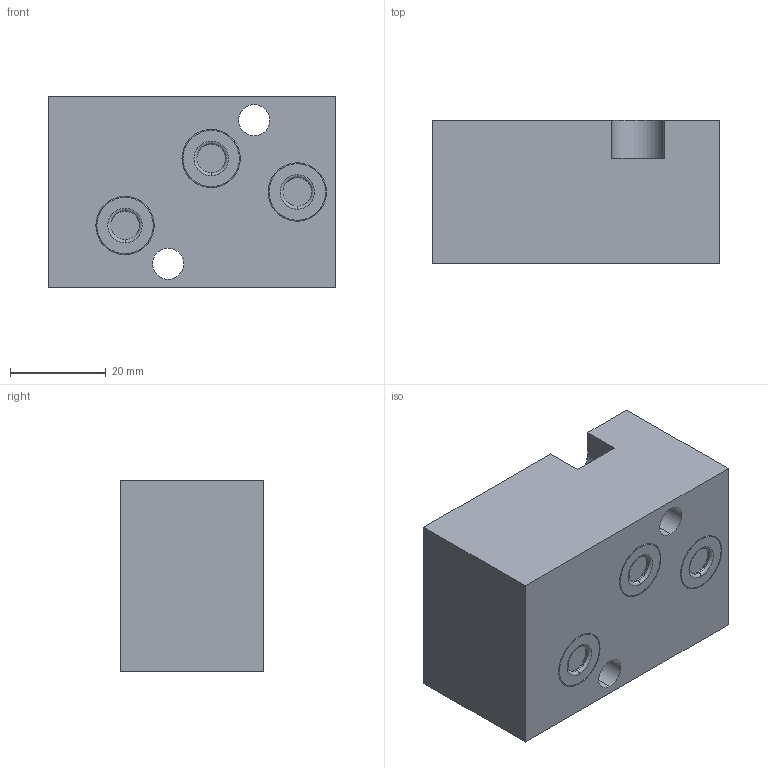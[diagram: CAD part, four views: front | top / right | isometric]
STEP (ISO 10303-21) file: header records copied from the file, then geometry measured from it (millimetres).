
FILE_DESCRIPTION(/* description */ (''),/* implementation_level */ '2;1');
FILE_NAME(/* name */ 'PBGF-LA.stp',/* time_stamp */ '2024-10-23T15:10:15+08:00',/* author */ (''),/* organization */ (''),/* preprocessor_version */ 'ST-DEVELOPER v16.7',/* originating_system */ 'SIEMENS PLM Software NX 12.0',/* authorisation */ '');
FILE_SCHEMA (('AP203_CONFIGURATION_CONTROLLED_3D_DESIGN_OF_MECHANICAL_PARTS_AND_ASSEMBLIES_MIM_LF { 1 0 10303 403 2 1 2}'));
Length unit declared in the file: millimetre
Products named in the file (1): VCP-L_HG_step
Bounding box: 60 x 30 x 40 mm (x, y, z)
Volume: 68770.8 mm3; surface area: 11987.9 mm2
Topology: 1 solids, 1 shells, 55 faces, 123 edges, 76 vertices
Faces by surface type: cylinder 19, torus 18, plane 18
Entity records: 1649 total; most frequent: DIRECTION 309, CARTESIAN_POINT 255, ORIENTED_EDGE 246, AXIS2_PLACEMENT_3D 130, EDGE_CURVE 123, VERTEX_POINT 76, CIRCLE 74, EDGE_LOOP 65
